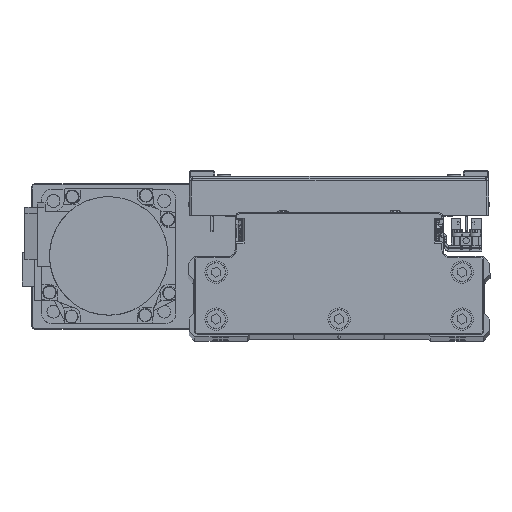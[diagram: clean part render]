
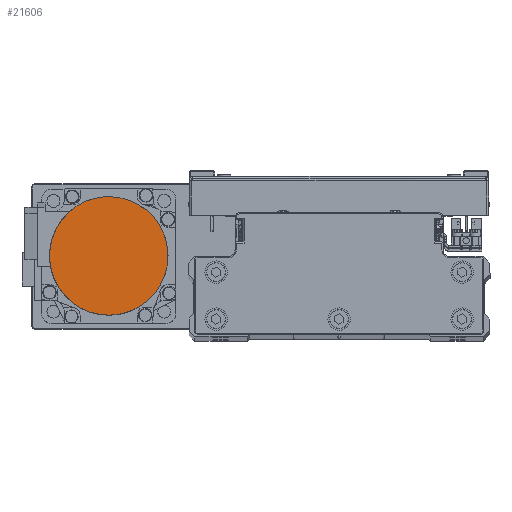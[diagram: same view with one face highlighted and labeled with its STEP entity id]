
A CAD part, top view. The second image highlights one B-rep face of the part: STEP entity #21606.
In plain terms, the highlighted planar face has unit normal (0, 0, 1) as drawn and (0, 0, -1) by its records, which use the part's own axes.
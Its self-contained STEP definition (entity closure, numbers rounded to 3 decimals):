
#354 = ORIENTED_EDGE ( 'NONE', *, *, #28797, .F. ) ;
#424 = DIRECTION ( 'NONE',  ( 0., 0., 1. ) ) ;
#1446 = VERTEX_POINT ( 'NONE', #30577 ) ;
#1968 = CARTESIAN_POINT ( 'NONE',  ( 21.07, 16.165, -109.7 ) ) ;
#2034 = CARTESIAN_POINT ( 'NONE',  ( -25.652, -6.871, -109.7 ) ) ;
#2174 = CARTESIAN_POINT ( 'NONE',  ( -8.539, 25.147, -109.7 ) ) ;
#2253 = CARTESIAN_POINT ( 'NONE',  ( -1.734, -26.5, -109.7 ) ) ;
#2408 = CARTESIAN_POINT ( 'NONE',  ( -26.5, 0., -109.7 ) ) ;
#2490 = CARTESIAN_POINT ( 'NONE',  ( 25.147, -8.539, -109.7 ) ) ;
#3771 = FACE_OUTER_BOUND ( 'NONE', #20130, .T. ) ;
#5301 = B_SPLINE_CURVE_WITH_KNOTS ( 'NONE', 3,
 ( #39425, #8680, #22364, #36062, #5325, #19006, #32704, #1968, #15618, #29317, #42994, #12252, #25953, #39657, #8907, #22597, #36293, #5542, #19208, #32905, #2174, #15840, #29542, #43226, #12490, #26174, #39880, #9125, #22803, #36496, #5750, #19429, #33141, #2408 ),
 .UNSPECIFIED., .F., .F.,
 ( 4, 2, 2, 2, 2, 2, 2, 2, 2, 2, 2, 2, 2, 2, 2, 2, 4 ),
 ( 0., 0.062, 0.125, 0.187, 0.25, 0.312, 0.375, 0.437, 0.5, 0.562, 0.625, 0.687, 0.75, 0.813, 0.875, 0.938, 1. ),
 .UNSPECIFIED. ) ;
#5325 = CARTESIAN_POINT ( 'NONE',  ( 25.147, 8.539, -109.7 ) ) ;
#5401 = CARTESIAN_POINT ( 'NONE',  ( -26.5, 0., -109.7 ) ) ;
#5542 = CARTESIAN_POINT ( 'NONE',  ( -1.734, 26.5, -109.7 ) ) ;
#5607 = CARTESIAN_POINT ( 'NONE',  ( -8.539, -25.147, -109.7 ) ) ;
#5638 = B_SPLINE_CURVE_WITH_KNOTS ( 'NONE', 3,
 ( #5401, #19077, #32772, #2034, #15684, #29386, #43066, #12328, #26024, #39733, #8983, #22673, #36364, #5607, #19280, #32981, #2253, #15914, #29620, #43303, #12567, #26249, #39953, #9196, #22872, #36572, #5832, #19507, #33216, #2490, #16155, #29848, #43517, #12773 ),
 .UNSPECIFIED., .F., .F.,
 ( 4, 2, 2, 2, 2, 2, 2, 2, 2, 2, 2, 2, 2, 2, 2, 2, 4 ),
 ( 0., 0.063, 0.125, 0.188, 0.25, 0.312, 0.375, 0.437, 0.5, 0.562, 0.625, 0.687, 0.75, 0.813, 0.875, 0.938, 1. ),
 .UNSPECIFIED. ) ;
#5750 = CARTESIAN_POINT ( 'NONE',  ( -25.652, 6.871, -109.7 ) ) ;
#5832 = CARTESIAN_POINT ( 'NONE',  ( 21.07, -16.165, -109.7 ) ) ;
#8680 = CARTESIAN_POINT ( 'NONE',  ( 26.5, 1.734, -109.7 ) ) ;
#8907 = CARTESIAN_POINT ( 'NONE',  ( 6.871, 25.652, -109.7 ) ) ;
#8983 = CARTESIAN_POINT ( 'NONE',  ( -16.165, -21.07, -109.7 ) ) ;
#9125 = CARTESIAN_POINT ( 'NONE',  ( -22.998, 13.28, -109.7 ) ) ;
#9196 = CARTESIAN_POINT ( 'NONE',  ( 16.165, -21.07, -109.7 ) ) ;
#12252 = CARTESIAN_POINT ( 'NONE',  ( 13.28, 22.998, -109.7 ) ) ;
#12328 = CARTESIAN_POINT ( 'NONE',  ( -21.07, -16.165, -109.7 ) ) ;
#12490 = CARTESIAN_POINT ( 'NONE',  ( -17.512, 19.965, -109.7 ) ) ;
#12567 = CARTESIAN_POINT ( 'NONE',  ( 8.539, -25.147, -109.7 ) ) ;
#12773 = CARTESIAN_POINT ( 'NONE',  ( 26.5, 0., -109.7 ) ) ;
#13269 = ORIENTED_EDGE ( 'NONE', *, *, #16980, .F. ) ;
#14076 = DIRECTION ( 'NONE',  ( 1., 0., 0. ) ) ;
#15618 = CARTESIAN_POINT ( 'NONE',  ( 19.965, 17.512, -109.7 ) ) ;
#15684 = CARTESIAN_POINT ( 'NONE',  ( -25.147, -8.539, -109.7 ) ) ;
#15840 = CARTESIAN_POINT ( 'NONE',  ( -11.744, 23.819, -109.7 ) ) ;
#15914 = CARTESIAN_POINT ( 'NONE',  ( 1.734, -26.5, -109.7 ) ) ;
#16155 = CARTESIAN_POINT ( 'NONE',  ( 25.652, -6.871, -109.7 ) ) ;
#16980 = EDGE_CURVE ( 'NONE', #17363, #1446, #5638, .T. ) ;
#17363 = VERTEX_POINT ( 'NONE', #29558 ) ;
#17435 = PLANE ( 'NONE',  #23876 ) ;
#19006 = CARTESIAN_POINT ( 'NONE',  ( 23.819, 11.744, -109.7 ) ) ;
#19077 = CARTESIAN_POINT ( 'NONE',  ( -26.5, -1.734, -109.7 ) ) ;
#19208 = CARTESIAN_POINT ( 'NONE',  ( -3.469, 26.329, -109.7 ) ) ;
#19280 = CARTESIAN_POINT ( 'NONE',  ( -6.871, -25.652, -109.7 ) ) ;
#19429 = CARTESIAN_POINT ( 'NONE',  ( -26.329, 3.469, -109.7 ) ) ;
#19507 = CARTESIAN_POINT ( 'NONE',  ( 22.998, -13.28, -109.7 ) ) ;
#20130 = EDGE_LOOP ( 'NONE', ( #354, #13269 ) ) ;
#21606 = ADVANCED_FACE ( 'NONE', ( #3771 ), #17435, .F. ) ;
#22364 = CARTESIAN_POINT ( 'NONE',  ( 26.329, 3.469, -109.7 ) ) ;
#22597 = CARTESIAN_POINT ( 'NONE',  ( 3.469, 26.329, -109.7 ) ) ;
#22673 = CARTESIAN_POINT ( 'NONE',  ( -13.28, -22.998, -109.7 ) ) ;
#22803 = CARTESIAN_POINT ( 'NONE',  ( -23.819, 11.744, -109.7 ) ) ;
#22872 = CARTESIAN_POINT ( 'NONE',  ( 17.512, -19.965, -109.7 ) ) ;
#23876 = AXIS2_PLACEMENT_3D ( 'NONE', #31144, #424, #14076 ) ;
#25953 = CARTESIAN_POINT ( 'NONE',  ( 11.744, 23.819, -109.7 ) ) ;
#26024 = CARTESIAN_POINT ( 'NONE',  ( -19.965, -17.512, -109.7 ) ) ;
#26174 = CARTESIAN_POINT ( 'NONE',  ( -19.965, 17.512, -109.7 ) ) ;
#26249 = CARTESIAN_POINT ( 'NONE',  ( 11.744, -23.819, -109.7 ) ) ;
#28797 = EDGE_CURVE ( 'NONE', #1446, #17363, #5301, .T. ) ;
#29317 = CARTESIAN_POINT ( 'NONE',  ( 17.512, 19.965, -109.7 ) ) ;
#29386 = CARTESIAN_POINT ( 'NONE',  ( -23.819, -11.744, -109.7 ) ) ;
#29542 = CARTESIAN_POINT ( 'NONE',  ( -13.28, 22.998, -109.7 ) ) ;
#29558 = CARTESIAN_POINT ( 'NONE',  ( -26.5, 0., -109.7 ) ) ;
#29620 = CARTESIAN_POINT ( 'NONE',  ( 3.469, -26.329, -109.7 ) ) ;
#29848 = CARTESIAN_POINT ( 'NONE',  ( 26.329, -3.469, -109.7 ) ) ;
#30577 = CARTESIAN_POINT ( 'NONE',  ( 26.5, 0., -109.7 ) ) ;
#31144 = CARTESIAN_POINT ( 'NONE',  ( 0., 0., -109.7 ) ) ;
#32704 = CARTESIAN_POINT ( 'NONE',  ( 22.998, 13.28, -109.7 ) ) ;
#32772 = CARTESIAN_POINT ( 'NONE',  ( -26.329, -3.469, -109.7 ) ) ;
#32905 = CARTESIAN_POINT ( 'NONE',  ( -6.871, 25.652, -109.7 ) ) ;
#32981 = CARTESIAN_POINT ( 'NONE',  ( -3.469, -26.329, -109.7 ) ) ;
#33141 = CARTESIAN_POINT ( 'NONE',  ( -26.5, 1.734, -109.7 ) ) ;
#33216 = CARTESIAN_POINT ( 'NONE',  ( 23.819, -11.744, -109.7 ) ) ;
#36062 = CARTESIAN_POINT ( 'NONE',  ( 25.652, 6.871, -109.7 ) ) ;
#36293 = CARTESIAN_POINT ( 'NONE',  ( 1.734, 26.5, -109.7 ) ) ;
#36364 = CARTESIAN_POINT ( 'NONE',  ( -11.744, -23.819, -109.7 ) ) ;
#36496 = CARTESIAN_POINT ( 'NONE',  ( -25.147, 8.539, -109.7 ) ) ;
#36572 = CARTESIAN_POINT ( 'NONE',  ( 19.965, -17.512, -109.7 ) ) ;
#39425 = CARTESIAN_POINT ( 'NONE',  ( 26.5, 0., -109.7 ) ) ;
#39657 = CARTESIAN_POINT ( 'NONE',  ( 8.539, 25.147, -109.7 ) ) ;
#39733 = CARTESIAN_POINT ( 'NONE',  ( -17.512, -19.965, -109.7 ) ) ;
#39880 = CARTESIAN_POINT ( 'NONE',  ( -21.07, 16.165, -109.7 ) ) ;
#39953 = CARTESIAN_POINT ( 'NONE',  ( 13.28, -22.998, -109.7 ) ) ;
#42994 = CARTESIAN_POINT ( 'NONE',  ( 16.165, 21.07, -109.7 ) ) ;
#43066 = CARTESIAN_POINT ( 'NONE',  ( -22.998, -13.28, -109.7 ) ) ;
#43226 = CARTESIAN_POINT ( 'NONE',  ( -16.165, 21.07, -109.7 ) ) ;
#43303 = CARTESIAN_POINT ( 'NONE',  ( 6.871, -25.652, -109.7 ) ) ;
#43517 = CARTESIAN_POINT ( 'NONE',  ( 26.5, -1.734, -109.7 ) ) ;
